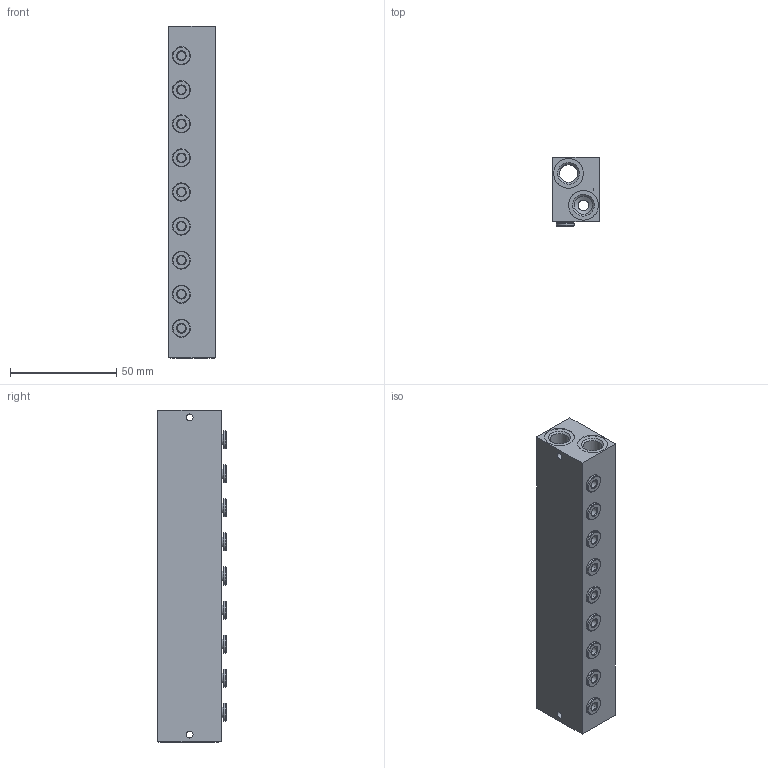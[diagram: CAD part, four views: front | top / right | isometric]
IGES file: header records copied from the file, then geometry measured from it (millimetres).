
Global section: file name: 354_09; native system: Autodesk Inventor 2014; preprocessor: unknown; author: R.Rivoltella; organization: Pneumax S.p.A.; date: 20161003.105229; units: millimetre
Bounding box: 22 x 32.25 x 156 mm (x, y, z)
Volume: 88351.7 mm3; surface area: 27981.5 mm2
Topology: 1 solids, 1 shells, 165 faces, 476 edges, 346 vertices
Faces by surface type: bspline 165
